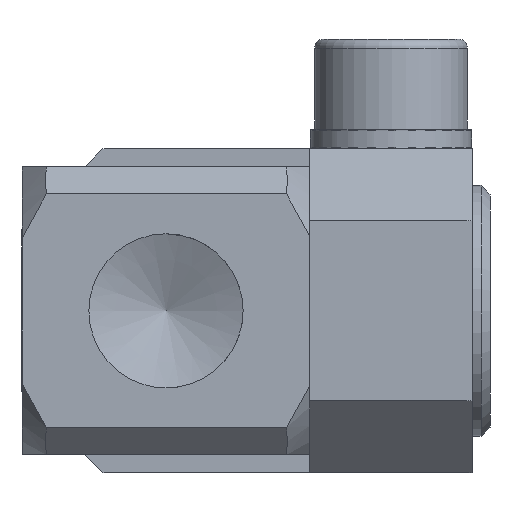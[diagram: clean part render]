
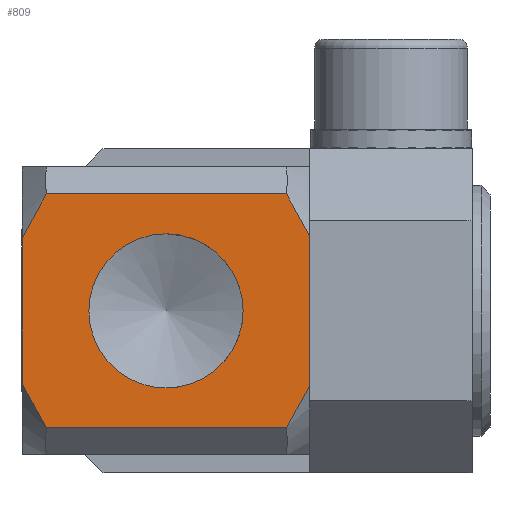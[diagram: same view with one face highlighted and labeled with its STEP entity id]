
A CAD part, front view. The second image highlights one B-rep face of the part: STEP entity #809.
In plain terms, the highlighted planar face has unit normal (0, -1, 0).
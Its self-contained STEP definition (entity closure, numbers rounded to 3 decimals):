
#809=ADVANCED_FACE('',(#1751,#1752),#1753,.T.);
#1751=FACE_OUTER_BOUND('',#4861,.T.);
#1752=FACE_BOUND('',#4862,.T.);
#1753=PLANE('',#4863);
#4861=EDGE_LOOP('',(#6383,#6384,#6385,#6386,#6387,#6388,#6389,#6390));
#4862=EDGE_LOOP('',(#6391));
#4863=AXIS2_PLACEMENT_3D('',#6392,#6393,#6394);
#6383=ORIENTED_EDGE('',*,*,#9041,.F.);
#6384=ORIENTED_EDGE('',*,*,#9030,.T.);
#6385=ORIENTED_EDGE('',*,*,#9042,.F.);
#6386=ORIENTED_EDGE('',*,*,#9013,.T.);
#6387=ORIENTED_EDGE('',*,*,#9043,.F.);
#6388=ORIENTED_EDGE('',*,*,#8981,.T.);
#6389=ORIENTED_EDGE('',*,*,#8976,.F.);
#6390=ORIENTED_EDGE('',*,*,#9010,.F.);
#6391=ORIENTED_EDGE('',*,*,#9002,.T.);
#6392=CARTESIAN_POINT('',(-8.0,-8.0,8.0));
#6393=DIRECTION('',(0.0,-1.0,0.0));
#6394=DIRECTION('',(0.0,0.0,-1.0));
#8976=EDGE_CURVE('',#10306,#10307,#10308,.T.);
#8981=EDGE_CURVE('',#10315,#10307,#10316,.T.);
#9002=EDGE_CURVE('',#10347,#10347,#10348,.T.);
#9010=EDGE_CURVE('',#10360,#10306,#10362,.T.);
#9013=EDGE_CURVE('',#10366,#10364,#10367,.T.);
#9030=EDGE_CURVE('',#10386,#10390,#10392,.T.);
#9041=EDGE_CURVE('',#10386,#10360,#10407,.T.);
#9042=EDGE_CURVE('',#10366,#10390,#10408,.T.);
#9043=EDGE_CURVE('',#10315,#10364,#10409,.T.);
#10306=VERTEX_POINT('',#12953);
#10307=VERTEX_POINT('',#12954);
#10308=B_SPLINE_CURVE_WITH_KNOTS('',3,(#12955,#12956,#12957,#12958),.UNSPECIFIED.,.F.,.F.,(4,4),(0.021,0.024),.UNSPECIFIED.);
#10315=VERTEX_POINT('',#12971);
#10316=LINE('',#12972,#12973);
#10347=VERTEX_POINT('',#13016);
#10348=CIRCLE('',#13017,4.283);
#10360=VERTEX_POINT('',#13033);
#10362=LINE('',#13035,#13036);
#10364=VERTEX_POINT('',#13038);
#10366=VERTEX_POINT('',#13040);
#10367=LINE('',#13041,#13042);
#10386=VERTEX_POINT('',#13068);
#10390=VERTEX_POINT('',#13076);
#10392=LINE('',#13081,#13082);
#10407=B_SPLINE_CURVE_WITH_KNOTS('',3,(#13097,#13098,#13099,#13100),.UNSPECIFIED.,.F.,.F.,(4,4),(0.01,0.013),.UNSPECIFIED.);
#10408=B_SPLINE_CURVE_WITH_KNOTS('',3,(#13101,#13102,#13103,#13104),.UNSPECIFIED.,.F.,.F.,(4,4),(0.021,0.024),.UNSPECIFIED.);
#10409=B_SPLINE_CURVE_WITH_KNOTS('',3,(#13105,#13106,#13107,#13108),.UNSPECIFIED.,.F.,.F.,(4,4),(0.01,0.013),.UNSPECIFIED.);
#12953=CARTESIAN_POINT('',(-4.123,-8.0,-8.0));
#12954=CARTESIAN_POINT('',(-6.5,-8.0,-6.692));
#12955=CARTESIAN_POINT('',(-4.123,-8.0,-8.));
#12956=CARTESIAN_POINT('',(-4.952,-8.0,-7.62));
#12957=CARTESIAN_POINT('',(-5.737,-8.0,-7.174));
#12958=CARTESIAN_POINT('',(-6.5,-8.0,-6.692));
#12971=CARTESIAN_POINT('',(-6.5,-8.0,6.646));
#12972=CARTESIAN_POINT('',(-6.5,-8.0,8.0));
#12973=VECTOR('',#15318,1.0);
#13016=CARTESIAN_POINT('',(0.0,-8.0,-4.283));
#13017=AXIS2_PLACEMENT_3D('',#15344,#15345,#15346);
#13033=CARTESIAN_POINT('',(4.123,-8.0,-8.0));
#13035=CARTESIAN_POINT('',(-8.0,-8.0,-8.0));
#13036=VECTOR('',#15357,1.0);
#13038=CARTESIAN_POINT('',(-4.021,-8.0,8.0));
#13040=CARTESIAN_POINT('',(4.021,-8.0,8.0));
#13041=CARTESIAN_POINT('',(-8.0,-8.0,8.0));
#13042=VECTOR('',#15361,1.0);
#13068=CARTESIAN_POINT('',(6.5,-8.0,-6.692));
#13076=CARTESIAN_POINT('',(6.5,-8.0,6.646));
#13081=CARTESIAN_POINT('',(6.5,-8.0,8.0));
#13082=VECTOR('',#15373,1.0);
#13097=CARTESIAN_POINT('',(6.5,-8.0,-6.692));
#13098=CARTESIAN_POINT('',(5.735,-8.0,-7.174));
#13099=CARTESIAN_POINT('',(4.95,-8.0,-7.621));
#13100=CARTESIAN_POINT('',(4.123,-8.0,-8.));
#13101=CARTESIAN_POINT('',(4.021,-8.0,8.));
#13102=CARTESIAN_POINT('',(4.887,-8.0,7.611));
#13103=CARTESIAN_POINT('',(5.706,-8.0,7.147));
#13104=CARTESIAN_POINT('',(6.5,-8.0,6.646));
#13105=CARTESIAN_POINT('',(-6.5,-8.0,6.646));
#13106=CARTESIAN_POINT('',(-5.704,-8.0,7.148));
#13107=CARTESIAN_POINT('',(-4.885,-8.0,7.612));
#13108=CARTESIAN_POINT('',(-4.021,-8.0,8.));
#15318=DIRECTION('',(0.0,0.0,-1.0));
#15344=CARTESIAN_POINT('',(0.0,-8.0,0.));
#15345=DIRECTION('',(0.0,1.0,0.0));
#15346=DIRECTION('',(0.0,0.0,-1.0));
#15357=DIRECTION('',(-1.0,0.0,0.0));
#15361=DIRECTION('',(-1.0,0.0,0.0));
#15373=DIRECTION('',(0.0,0.0,1.0));
